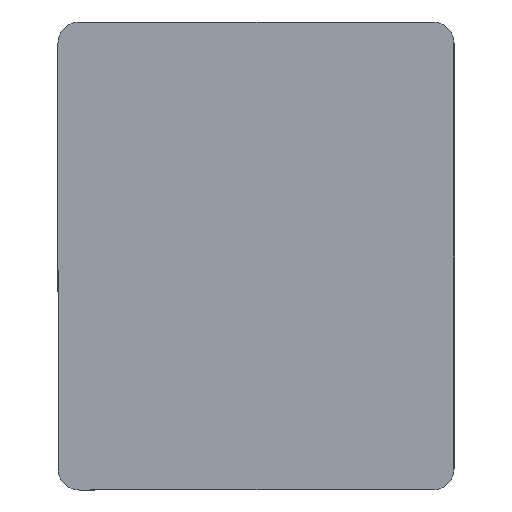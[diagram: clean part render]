
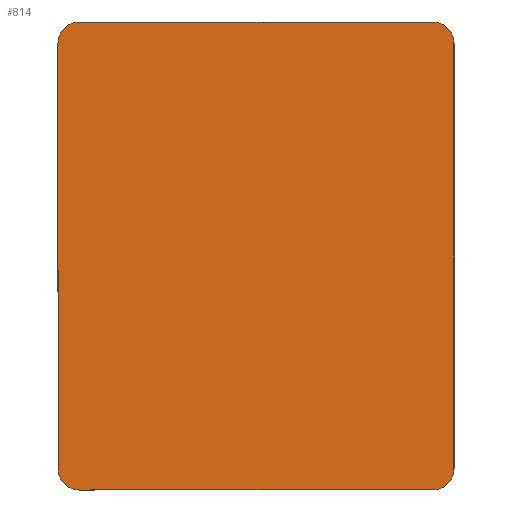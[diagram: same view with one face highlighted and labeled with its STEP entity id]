
A CAD part, left-side view. The second image highlights one B-rep face of the part: STEP entity #814.
In plain terms, the highlighted planar face has unit normal (-1, 0, 0).
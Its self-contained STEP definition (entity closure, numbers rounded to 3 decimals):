
#19 = CARTESIAN_POINT ( 'NONE',  ( 172.5, -57., 32. ) ) ;
#24 = DIRECTION ( 'NONE',  ( 0., 1., 0. ) ) ;
#53 = CARTESIAN_POINT ( 'NONE',  ( 172.5, -2., 97. ) ) ;
#64 = DIRECTION ( 'NONE',  ( -1., 0., 0. ) ) ;
#450 = DIRECTION ( 'NONE',  ( -1., 0., 0. ) ) ;
#514 = CARTESIAN_POINT ( 'NONE',  ( 172.5, -57., 35. ) ) ;
#586 = DIRECTION ( 'NONE',  ( 0., 1., 0. ) ) ;
#814 = ADVANCED_FACE ( 'NONE', ( #3224 ), #3599, .F. ) ;
#824 = ORIENTED_EDGE ( 'NONE', *, *, #2610, .T. ) ;
#837 = CARTESIAN_POINT ( 'NONE',  ( 172.5, -5., 35. ) ) ;
#839 = CARTESIAN_POINT ( 'NONE',  ( 172.5, -2., 32. ) ) ;
#864 = EDGE_CURVE ( 'NONE', #3346, #5536, #2880, .T. ) ;
#886 = ORIENTED_EDGE ( 'NONE', *, *, #864, .T. ) ;
#903 = CIRCLE ( 'NONE', #2159, 3. ) ;
#965 = DIRECTION ( 'NONE',  ( 0., 1., 0. ) ) ;
#966 = DIRECTION ( 'NONE',  ( -1., 0., 0. ) ) ;
#972 = CARTESIAN_POINT ( 'NONE',  ( 172.5, -54., 94. ) ) ;
#1111 = ORIENTED_EDGE ( 'NONE', *, *, #4584, .T. ) ;
#1138 = VECTOR ( 'NONE', #24, 1000. ) ;
#1534 = AXIS2_PLACEMENT_3D ( 'NONE', #837, #450, #586 ) ;
#1725 = VERTEX_POINT ( 'NONE', #1890 ) ;
#1732 = AXIS2_PLACEMENT_3D ( 'NONE', #3995, #64, #2858 ) ;
#1794 = AXIS2_PLACEMENT_3D ( 'NONE', #972, #966, #965 ) ;
#1801 = DIRECTION ( 'NONE',  ( 0., -1., 0. ) ) ;
#1890 = CARTESIAN_POINT ( 'NONE',  ( 172.5, -5., 97. ) ) ;
#1995 = VERTEX_POINT ( 'NONE', #2804 ) ;
#1999 = VERTEX_POINT ( 'NONE', #2870 ) ;
#2073 = CIRCLE ( 'NONE', #1794, 3. ) ;
#2105 = VECTOR ( 'NONE', #1801, 1000. ) ;
#2159 = AXIS2_PLACEMENT_3D ( 'NONE', #5407, #5401, #5399 ) ;
#2367 = ORIENTED_EDGE ( 'NONE', *, *, #3101, .T. ) ;
#2443 = CARTESIAN_POINT ( 'NONE',  ( 172.5, -2., 32. ) ) ;
#2524 = EDGE_CURVE ( 'NONE', #4193, #1725, #4979, .T. ) ;
#2610 = EDGE_CURVE ( 'NONE', #1995, #3346, #4813, .T. ) ;
#2643 = ORIENTED_EDGE ( 'NONE', *, *, #2524, .T. ) ;
#2693 = CARTESIAN_POINT ( 'NONE',  ( 172.5, -54., 32. ) ) ;
#2804 = CARTESIAN_POINT ( 'NONE',  ( 172.5, -2., 35. ) ) ;
#2847 = EDGE_CURVE ( 'NONE', #5049, #3853, #3350, .T. ) ;
#2858 = DIRECTION ( 'NONE',  ( 0., 1., 0. ) ) ;
#2870 = CARTESIAN_POINT ( 'NONE',  ( 172.5, -2., 94. ) ) ;
#2873 = CARTESIAN_POINT ( 'NONE',  ( 172.5, -54., 97. ) ) ;
#2880 = LINE ( 'NONE', #2443, #2105 ) ;
#3101 = EDGE_CURVE ( 'NONE', #1725, #1999, #5070, .T. ) ;
#3221 = ORIENTED_EDGE ( 'NONE', *, *, #3395, .T. ) ;
#3224 = FACE_OUTER_BOUND ( 'NONE', #5547, .T. ) ;
#3346 = VERTEX_POINT ( 'NONE', #5493 ) ;
#3350 = LINE ( 'NONE', #19, #4625 ) ;
#3395 = EDGE_CURVE ( 'NONE', #5536, #5049, #903, .T. ) ;
#3504 = EDGE_CURVE ( 'NONE', #1999, #1995, #5480, .T. ) ;
#3599 = PLANE ( 'NONE',  #4430 ) ;
#3853 = VERTEX_POINT ( 'NONE', #4015 ) ;
#3991 = ORIENTED_EDGE ( 'NONE', *, *, #2847, .T. ) ;
#3995 = CARTESIAN_POINT ( 'NONE',  ( 172.5, -5., 94. ) ) ;
#4015 = CARTESIAN_POINT ( 'NONE',  ( 172.5, -57., 94. ) ) ;
#4193 = VERTEX_POINT ( 'NONE', #2873 ) ;
#4430 = AXIS2_PLACEMENT_3D ( 'NONE', #839, #5028, #5240 ) ;
#4584 = EDGE_CURVE ( 'NONE', #3853, #4193, #2073, .T. ) ;
#4625 = VECTOR ( 'NONE', #5295, 1000. ) ;
#4813 = CIRCLE ( 'NONE', #1534, 3. ) ;
#4822 = DIRECTION ( 'NONE',  ( 0., 0., -1. ) ) ;
#4979 = LINE ( 'NONE', #53, #1138 ) ;
#5028 = DIRECTION ( 'NONE',  ( 1., 0., 0. ) ) ;
#5049 = VERTEX_POINT ( 'NONE', #514 ) ;
#5070 = CIRCLE ( 'NONE', #1732, 3. ) ;
#5240 = DIRECTION ( 'NONE',  ( 0., 1., 0. ) ) ;
#5295 = DIRECTION ( 'NONE',  ( 0., 0., 1. ) ) ;
#5327 = CARTESIAN_POINT ( 'NONE',  ( 172.5, -2., 32. ) ) ;
#5399 = DIRECTION ( 'NONE',  ( 0., 1., 0. ) ) ;
#5401 = DIRECTION ( 'NONE',  ( -1., 0., 0. ) ) ;
#5407 = CARTESIAN_POINT ( 'NONE',  ( 172.5, -54., 35. ) ) ;
#5448 = VECTOR ( 'NONE', #4822, 1000. ) ;
#5452 = ORIENTED_EDGE ( 'NONE', *, *, #3504, .T. ) ;
#5480 = LINE ( 'NONE', #5327, #5448 ) ;
#5493 = CARTESIAN_POINT ( 'NONE',  ( 172.5, -5., 32. ) ) ;
#5536 = VERTEX_POINT ( 'NONE', #2693 ) ;
#5547 = EDGE_LOOP ( 'NONE', ( #5452, #824, #886, #3221, #3991, #1111, #2643, #2367 ) ) ;
